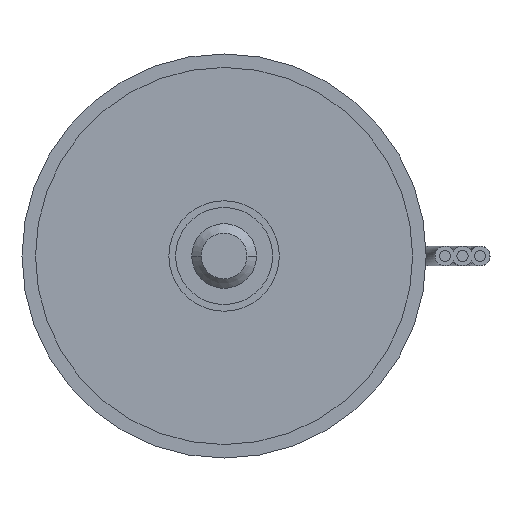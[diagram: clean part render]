
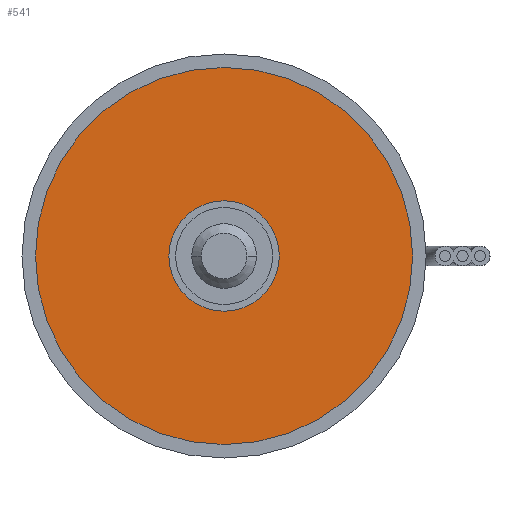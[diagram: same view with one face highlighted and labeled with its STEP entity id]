
A CAD part, front view. The second image highlights one B-rep face of the part: STEP entity #541.
In plain terms, the highlighted planar face has unit normal (0, -1, 0).
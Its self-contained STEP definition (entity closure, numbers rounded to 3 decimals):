
#100=CARTESIAN_POINT('',(0.,16.,0.));
#101=DIRECTION('',(0.,1.,0.));
#102=DIRECTION('',(1.,0.,0.));
#103=AXIS2_PLACEMENT_3D('',#100,#101,#102);
#109=CARTESIAN_POINT('',(0.,16.,0.));
#110=DIRECTION('',(0.,-1.,0.));
#111=DIRECTION('',(1.,0.,0.));
#112=AXIS2_PLACEMENT_3D('',#109,#110,#111);
#118=CARTESIAN_POINT('',(0.,16.,0.));
#119=DIRECTION('',(0.,1.,0.));
#120=DIRECTION('',(1.,0.,0.));
#121=AXIS2_PLACEMENT_3D('',#118,#119,#120);
#123=CARTESIAN_POINT('',(0.,16.,0.));
#124=DIRECTION('',(0.,-1.,0.));
#125=DIRECTION('',(1.,0.,0.));
#126=AXIS2_PLACEMENT_3D('',#123,#124,#125);
#329=CARTESIAN_POINT('',(6.,16.,0.));
#331=VERTEX_POINT('',#329);
#332=CARTESIAN_POINT('',(35.,16.,0.));
#334=VERTEX_POINT('',#332);
#351=CARTESIAN_POINT('',(-6.,16.,0.));
#353=VERTEX_POINT('',#351);
#354=CARTESIAN_POINT('',(-35.,16.,0.));
#356=VERTEX_POINT('',#354);
#526=CARTESIAN_POINT('',(0.,16.,0.));
#527=DIRECTION('',(0.,1.,0.));
#528=DIRECTION('',(1.,0.,0.));
#529=AXIS2_PLACEMENT_3D('',#526,#527,#528);
#530=PLANE('',#529);
#531=ORIENTED_EDGE('',*,*,#512,.F.);
#532=ORIENTED_EDGE('',*,*,#494,.T.);
#533=EDGE_LOOP('',(#531,#532));
#534=FACE_OUTER_BOUND('',#533,.F.);
#536=ORIENTED_EDGE('',*,*,#535,.F.);
#538=ORIENTED_EDGE('',*,*,#537,.T.);
#539=EDGE_LOOP('',(#536,#538));
#540=FACE_BOUND('',#539,.F.);
#104=CIRCLE('',#103,35.);
#113=CIRCLE('',#112,35.);
#122=CIRCLE('',#121,6.);
#127=CIRCLE('',#126,6.);
#494=EDGE_CURVE('',#334,#356,#104,.T.);
#512=EDGE_CURVE('',#334,#356,#113,.T.);
#535=EDGE_CURVE('',#331,#353,#122,.T.);
#537=EDGE_CURVE('',#331,#353,#127,.T.);
#541=ADVANCED_FACE('',(#534,#540),#530,.F.);
